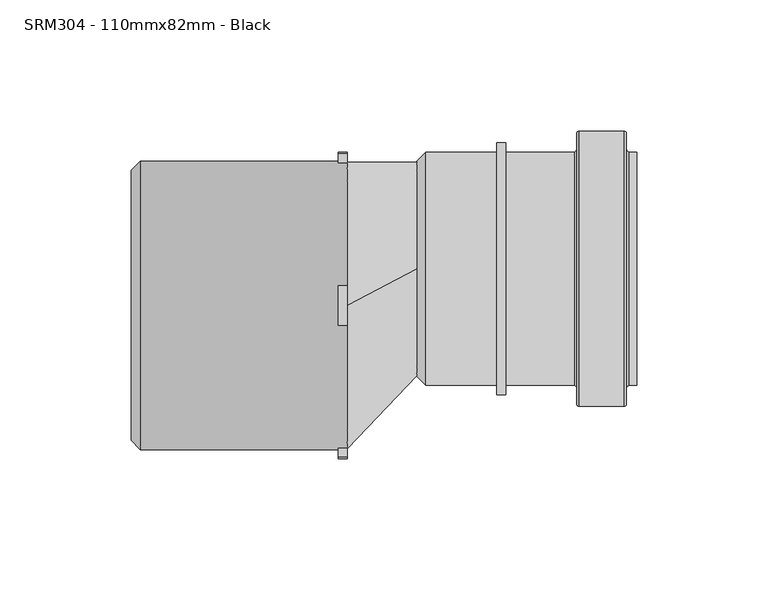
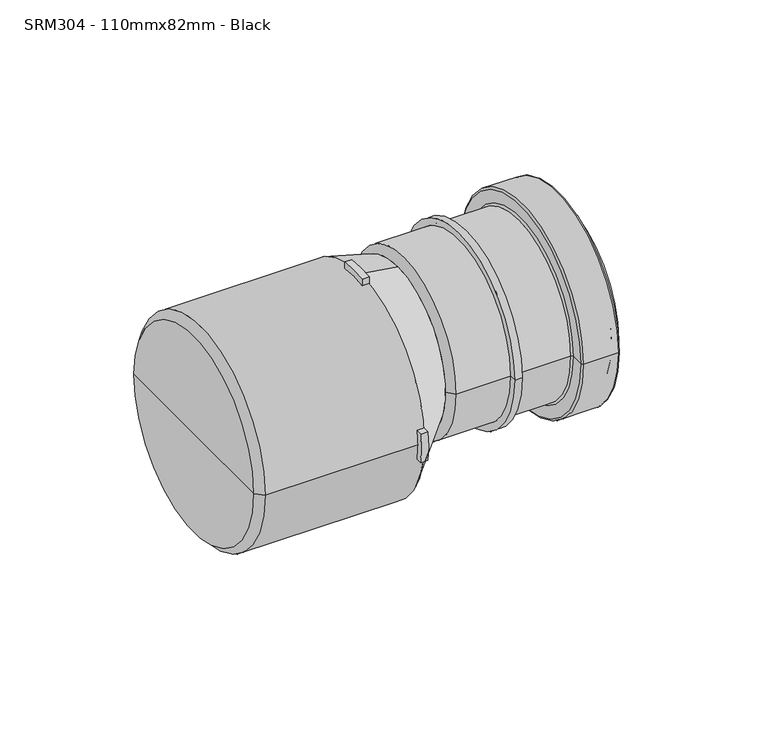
"""IFC4 building model written with IfcOpenShell, lengths in millimetres: pipe fitting geometry, MarleyPlumbingAndDrainage_PipeFitting_LevelInvertReducer : SRM304 - 110mmx82mm - Black."""

from ifc_helpers import new_model, si_unit, point, frame, frame_2d, origin, place, context, project, spatial, polyline, circle_curve, ellipse_curve, trimmed, segment, composite_curve, outline, extrude, source, transform, mapped, element, save
from ifc_brep_helpers import plane_surface, cylinder_surface, revolved_surface, spline_surface, advanced_brep


def srm304_110mmx82mm_black_22a10cc0(model_context):
    return source(origin(), model_context, "Body", "SolidModel", [
        advanced_brep(
        [(-260.2799651, -65.5, 0.0), (-260.2799651, 37.5, 0.0), (-256.7799651, 41.0, 0.0), (-256.7799651, -69.0, 0.0), (-260.2799651, -14.0, 0.0), (-177.7799651, 41.0, 0.0), (-177.7799651, -14.0, -55.0), (-177.7799651, -69.0, 0.0), (-177.7799651, -14.0, 55.0), (-151.2799651, 0.0, -41.0), (-151.2799651, 0.0, 41.0)],
        [
            (0, 1, circle_curve(frame((-260.2799651, -14.0, 0.0), z_axis=(1.0, 0.0, 0.0), x_axis=(0.0, 1.0, 0.0)), 51.5)),
            (1, 2),
            (2, 3, circle_curve(frame((-256.7799651, -14.0, 0.0), z_axis=(-1.0, 0.0, 0.0), x_axis=(0.0, 1.0, 0.0)), 55.0)),
            (3, 0),
            (1, 0, circle_curve(frame((-260.2799651, -14.0, 0.0), z_axis=(1.0, 0.0, 0.0), x_axis=(0.0, 1.0, 0.0)), 51.5)),
            (3, 2, circle_curve(frame((-256.7799651, -14.0, 0.0), z_axis=(-1.0, 0.0, 0.0), x_axis=(0.0, 1.0, 0.0)), 55.0)),
            (0, 4),
            (4, 1),
            (2, 5),
            (5, 6, circle_curve(frame((-177.7799651, -14.0, 0.0), z_axis=(-1.0, 0.0, 0.0), x_axis=(0.0, 1.0, 0.0)), 55.0)),
            (6, 7, circle_curve(frame((-177.7799651, -14.0, 0.0), z_axis=(-1.0, 0.0, 0.0), x_axis=(0.0, 1.0, 0.0)), 55.0)),
            (7, 3),
            (7, 8, circle_curve(frame((-177.7799651, -14.0, 0.0), z_axis=(-1.0, 0.0, 0.0), x_axis=(0.0, 1.0, 0.0)), 55.0)),
            (8, 5, circle_curve(frame((-177.7799651, -14.0, 0.0), z_axis=(-1.0, 0.0, 0.0), x_axis=(0.0, 1.0, 0.0)), 55.0)),
            (9, 10, circle_curve(frame((-151.2799651, 0.0, 0.0), z_axis=(1.0, 0.0, 0.0), x_axis=(0.0, 0.0, 1.0)), 41.0)),
            (10, 9, circle_curve(frame((-151.2799651, 0.0, 0.0), z_axis=(1.0, 0.0, 0.0), x_axis=(0.0, 0.0, 1.0)), 41.0)),
            (9, 6),
            (8, 10),
        ],
        [
            revolved_surface(polyline([(-256.7799651, 41.0, 0.0), (-260.2799651, 37.5, 0.0)]), (25.0, -14.0, 0.0), (-1.0, 0.0, 0.0)),
            plane_surface(frame((-260.2799651, -14.0, 0.0), z_axis=(-1.0, 0.0, 0.0), x_axis=(0.0, 1.0, 0.0))),
            cylinder_surface(frame((25.0, -14.0, 0.0), z_axis=(-1.0, 0.0, 0.0), x_axis=(0.0, 1.0, 0.0)), 55.0),
            plane_surface(frame((-151.2799651, 0.0, 0.0), z_axis=(1.0, 0.0, 0.0), x_axis=(0.0, 1.0, 0.0))),
            spline_surface(2, 1, [[(-177.7799651, -14.0, -55.0), (-151.2799651, 0.0, -41.0)], [(-177.7799651, 41.0, -55.0), (-151.2799651, 41.0, -41.0)], [(-177.7799651, 41.0, 0.0), (-151.2799651, 41.0, 0.0)], [(-177.7799651, 41.0, 55.0), (-151.2799651, 41.0, 41.0)], [(-177.7799651, -14.0, 55.0), (-151.2799651, 0.0, 41.0)]], [3, 2, 3], [2, 2], [0.0, 1.0, 2.0], [0.0, 1.0], weights=[[1.0, 1.0], [0.7071067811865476, 0.7071067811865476], [1.0, 1.0], [0.7071067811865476, 0.7071067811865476], [1.0, 1.0]]),
            spline_surface(2, 1, [[(-177.7799651, -14.0, 55.0), (-151.2799651, 0.0, 41.0)], [(-177.7799651, -69.0, 55.0), (-151.2799651, -41.0, 41.0)], [(-177.7799651, -69.0, 0.0), (-151.2799651, -41.0, 0.0)], [(-177.7799651, -69.0, -55.0), (-151.2799651, -41.0, -41.0)], [(-177.7799651, -14.0, -55.0), (-151.2799651, 0.0, -41.0)]], [3, 2, 3], [2, 2], [0.0, 1.0, 2.0], [0.0, 1.0], weights=[[1.0, 1.0], [0.7071067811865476, 0.7071067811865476], [1.0, 1.0], [0.7071067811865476, 0.7071067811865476], [1.0, 1.0]]),
        ],
        [
            (0, [[1, 2, 3, 4]]),
            (0, [[-2, 5, -4, 6]]),
            (1, [[-1, 7, 8]]),
            (1, [[-5, -8, -7]]),
            (2, [[-3, 9, 10, 11, 12]]),
            (2, [[-6, -12, 13, 14, -9]]),
            (3, [[15, 16]]),
            (4, [[-15, 17, -10, -14, 18]]),
            (5, [[-16, -18, -13, -11, -17]]),
        ],
    ),
        advanced_brep(
        [(-117.2799651, 48.0, 0.0), (-117.2799651, -48.0, 0.0), (-120.7799651, -48.0, 0.0), (-120.7799651, 48.0, 0.0), (-117.2799651, 44.5, 0.0), (-117.2799651, -44.5, 0.0), (-120.7799651, 44.5, 0.0), (-120.7799651, -44.5, 0.0)],
        [
            (0, 1, circle_curve(frame((-117.2799651, 0.0, 0.0), z_axis=(-1.0, 0.0, 0.0), x_axis=(0.0, -1.0, 0.0)), 48.0)),
            (1, 2),
            (2, 3, circle_curve(frame((-120.7799651, 0.0, 0.0), z_axis=(1.0, 0.0, 0.0), x_axis=(0.0, -1.0, 0.0)), 48.0)),
            (3, 0),
            (1, 0, circle_curve(frame((-117.2799651, 0.0, 0.0), z_axis=(-1.0, 0.0, 0.0), x_axis=(0.0, -1.0, 0.0)), 48.0)),
            (3, 2, circle_curve(frame((-120.7799651, 0.0, 0.0), z_axis=(1.0, 0.0, 0.0), x_axis=(0.0, -1.0, 0.0)), 48.0)),
            (4, 5, circle_curve(frame((-117.2799651, 0.0, 0.0), z_axis=(-1.0, 0.0, 0.0), x_axis=(0.0, -1.0, 0.0)), 44.5)),
            (5, 1),
            (0, 4),
            (5, 4, circle_curve(frame((-117.2799651, 0.0, 0.0), z_axis=(-1.0, 0.0, 0.0), x_axis=(0.0, -1.0, 0.0)), 44.5)),
            (6, 7, circle_curve(frame((-120.7799651, 0.0, 0.0), z_axis=(-1.0, 0.0, 0.0), x_axis=(0.0, -1.0, 0.0)), 44.5)),
            (7, 5),
            (4, 6),
            (7, 6, circle_curve(frame((-120.7799651, 0.0, 0.0), z_axis=(-1.0, 0.0, 0.0), x_axis=(0.0, -1.0, 0.0)), 44.5)),
            (2, 7),
            (6, 3),
        ],
        [
            cylinder_surface(frame((-296.1478542, 0.0, 0.0), z_axis=(1.0, 0.0, 0.0), x_axis=(0.0, -1.0, 0.0)), 48.0),
            plane_surface(frame((-117.2799651, 0.0, 0.0), z_axis=(1.0, 0.0, 0.0), x_axis=(0.0, -1.0, 0.0))),
            revolved_surface(polyline([(-117.2799651, -44.5, 0.0), (-120.7799651, -44.5, 0.0)]), (-296.1478542, 0.0, 0.0), (1.0, 0.0, 0.0)),
            plane_surface(frame((-120.7799651, 0.0, 0.0), z_axis=(-1.0, 0.0, 0.0), x_axis=(0.0, -1.0, 0.0))),
        ],
        [
            (0, [[1, 2, 3, 4]]),
            (0, [[5, -4, 6, -2]]),
            (1, [[7, 8, -1, 9]]),
            (1, [[10, -9, -5, -8]]),
            (2, [[11, 12, -7, 13]]),
            (2, [[14, -13, -10, -12]]),
            (3, [[-3, 15, -11, 16]]),
            (3, [[-6, -16, -14, -15]]),
        ],
    ),
        extrude(outline(composite_curve([segment(trimmed(circle_curve(frame_2d((-14.0, 0.0)), 58.5), [point((-72.0172388, -7.5))], [point((-72.0172388, 7.5))], False, "CARTESIAN"), True, "CONTINUOUS"), segment(polyline([(-72.0172388, 7.5), (-68.4862368, 7.5)]), True, "CONTINUOUS"), segment(trimmed(circle_curve(frame_2d((-14.0, 0.0)), 55.0), [point((-68.4862368, 7.5))], [point((-68.4862368, -7.5))], True, "CARTESIAN"), True, "CONTINUOUS"), segment(polyline([(-68.4862368, -7.5), (-72.0172388, -7.5)]), True, "CONTINUOUS")], self_intersect=False)), frame((-181.2799651, 0.0, 0.0), z_axis=(1.0, 0.0, 0.0), x_axis=(0.0, 1.0, 0.0)), (0.0, 0.0, 1.0), 3.5),
        extrude(outline(composite_curve([segment(polyline([(40.4862368, 7.5), (44.0172388, 7.5)]), True, "CONTINUOUS"), segment(trimmed(circle_curve(frame_2d((-14.0, 0.0)), 58.5), [point((44.0172388, 7.5))], [point((44.0172388, -7.5))], False, "CARTESIAN"), True, "CONTINUOUS"), segment(polyline([(44.0172388, -7.5), (40.4862368, -7.5)]), True, "CONTINUOUS"), segment(trimmed(circle_curve(frame_2d((-14.0, 0.0)), 55.0), [point((40.4862368, -7.5))], [point((40.4862368, 7.5))], True, "CARTESIAN"), True, "CONTINUOUS")], self_intersect=False)), frame((-181.2799651, 0.0, 0.0), z_axis=(1.0, 0.0, 0.0), x_axis=(0.0, 1.0, 0.0)), (0.0, 0.0, 1.0), 3.5),
        extrude(outline(composite_curve([segment(polyline([(-6.5, -54.4862368), (-6.5, -58.0172388)]), True, "CONTINUOUS"), segment(trimmed(circle_curve(frame_2d((-14.0, 0.0)), 58.5), [point((-6.5, -58.0172388))], [point((-21.5, -58.0172388))], False, "CARTESIAN"), True, "CONTINUOUS"), segment(polyline([(-21.5, -58.0172388), (-21.5, -54.4862368)]), True, "CONTINUOUS"), segment(trimmed(circle_curve(frame_2d((-14.0, 0.0)), 55.0), [point((-21.5, -54.4862368))], [point((-6.5, -54.4862368))], True, "CARTESIAN"), True, "CONTINUOUS")], self_intersect=False)), frame((-181.2799651, 0.0, 0.0), z_axis=(1.0, 0.0, 0.0), x_axis=(0.0, 1.0, 0.0)), (0.0, 0.0, 1.0), 3.5),
        extrude(outline(composite_curve([segment(polyline([(-21.5, 54.4862368), (-21.5, 58.0172388)]), True, "CONTINUOUS"), segment(trimmed(circle_curve(frame_2d((-14.0, 0.0)), 58.5), [point((-21.5, 58.0172388))], [point((-6.5, 58.0172388))], False, "CARTESIAN"), True, "CONTINUOUS"), segment(polyline([(-6.5, 58.0172388), (-6.5, 54.4862368)]), True, "CONTINUOUS"), segment(trimmed(circle_curve(frame_2d((-14.0, 0.0)), 55.0), [point((-6.5, 54.4862368))], [point((-21.5, 54.4862368))], True, "CARTESIAN"), True, "CONTINUOUS")], self_intersect=False)), frame((-181.2799651, 0.0, 0.0), z_axis=(1.0, 0.0, 0.0), x_axis=(0.0, 1.0, 0.0)), (0.0, 0.0, 1.0), 3.5),
        advanced_brep(
        [(-67.2799651, 41.0, 0.0), (-67.2799651, -41.0, 0.0), (-67.2799651, -44.5, 0.0), (-67.2799651, 44.5, 0.0), (-143.2799651, 41.0, 0.0), (-143.2799651, -41.0, 0.0), (-91.2799651, 44.5, 0.0), (-91.2799651, -44.5, 0.0), (-147.7799651, -44.5, 0.0), (-147.7799651, 44.5, 0.0), (-90.2799651, 51.5, 0.0), (-90.2799651, -51.5, 0.0), (-90.2799651, -45.5, 0.0), (-90.2799651, 45.5, 0.0), (-72.2799651, 52.5, 0.0), (-72.2799651, -52.5, 0.0), (-89.2799651, -52.5, 0.0), (-89.2799651, 52.5, 0.0), (-71.2799651, 45.5, 0.0), (-71.2799651, -45.5, 0.0), (-71.2799651, -51.5, 0.0), (-71.2799651, 51.5, 0.0), (-70.2799651, -44.5, 0.0), (-70.2799651, 44.5, 0.0), (-143.2799651, 0.0, 0.0), (-151.2799651, 41.0, 0.0), (-151.2799651, -41.0, 0.0), (-151.2799651, 0.0, 0.0)],
        [
            (0, 1, circle_curve(frame((-67.2799651, 0.0, 0.0), z_axis=(-1.0, 0.0, 0.0), x_axis=(0.0, -1.0, 0.0)), 41.0)),
            (1, 2),
            (2, 3, circle_curve(frame((-67.2799651, 0.0, 0.0), z_axis=(1.0, 0.0, 0.0), x_axis=(0.0, -1.0, 0.0)), 44.5)),
            (3, 0),
            (1, 0, circle_curve(frame((-67.2799651, 0.0, 0.0), z_axis=(-1.0, 0.0, 0.0), x_axis=(0.0, -1.0, 0.0)), 41.0)),
            (3, 2, circle_curve(frame((-67.2799651, 0.0, 0.0), z_axis=(1.0, 0.0, 0.0), x_axis=(0.0, -1.0, 0.0)), 44.5)),
            (4, 5, circle_curve(frame((-143.2799651, 0.0, 0.0), z_axis=(-1.0, 0.0, 0.0), x_axis=(0.0, -1.0, 0.0)), 41.0)),
            (5, 1),
            (0, 4),
            (5, 4, circle_curve(frame((-143.2799651, 0.0, 0.0), z_axis=(-1.0, 0.0, 0.0), x_axis=(0.0, -1.0, 0.0)), 41.0)),
            (6, 7, circle_curve(frame((-91.2799651, 0.0, 0.0), z_axis=(-1.0, 0.0, 0.0), x_axis=(0.0, -1.0, 0.0)), 44.5)),
            (7, 8),
            (8, 9, circle_curve(frame((-147.7799651, 0.0, 0.0), z_axis=(1.0, 0.0, 0.0), x_axis=(0.0, -1.0, 0.0)), 44.5)),
            (9, 6),
            (7, 6, circle_curve(frame((-91.2799651, 0.0, 0.0), z_axis=(-1.0, 0.0, 0.0), x_axis=(0.0, -1.0, 0.0)), 44.5)),
            (9, 8, circle_curve(frame((-147.7799651, 0.0, 0.0), z_axis=(1.0, 0.0, 0.0), x_axis=(0.0, -1.0, 0.0)), 44.5)),
            (10, 11, circle_curve(frame((-90.2799651, 0.0, 0.0), z_axis=(-1.0, 0.0, 0.0), x_axis=(0.0, -1.0, 0.0)), 51.5)),
            (11, 12),
            (12, 13, circle_curve(frame((-90.2799651, 0.0, 0.0), z_axis=(1.0, 0.0, 0.0), x_axis=(0.0, -1.0, 0.0)), 45.5)),
            (13, 10),
            (11, 10, circle_curve(frame((-90.2799651, 0.0, 0.0), z_axis=(-1.0, 0.0, 0.0), x_axis=(0.0, -1.0, 0.0)), 51.5)),
            (13, 12, circle_curve(frame((-90.2799651, 0.0, 0.0), z_axis=(1.0, 0.0, 0.0), x_axis=(0.0, -1.0, 0.0)), 45.5)),
            (14, 15, circle_curve(frame((-72.2799651, 0.0, 0.0), z_axis=(-1.0, 0.0, 0.0), x_axis=(0.0, -1.0, 0.0)), 52.5)),
            (15, 16),
            (16, 17, circle_curve(frame((-89.2799651, 0.0, 0.0), z_axis=(1.0, 0.0, 0.0), x_axis=(0.0, -1.0, 0.0)), 52.5)),
            (17, 14),
            (15, 14, circle_curve(frame((-72.2799651, 0.0, 0.0), z_axis=(-1.0, 0.0, 0.0), x_axis=(0.0, -1.0, 0.0)), 52.5)),
            (17, 16, circle_curve(frame((-89.2799651, 0.0, 0.0), z_axis=(1.0, 0.0, 0.0), x_axis=(0.0, -1.0, 0.0)), 52.5)),
            (18, 19, circle_curve(frame((-71.2799651, 0.0, 0.0), z_axis=(-1.0, 0.0, 0.0), x_axis=(0.0, -1.0, 0.0)), 45.5)),
            (19, 20),
            (20, 21, circle_curve(frame((-71.2799651, 0.0, 0.0), z_axis=(1.0, 0.0, 0.0), x_axis=(0.0, -1.0, 0.0)), 51.5)),
            (21, 18),
            (19, 18, circle_curve(frame((-71.2799651, 0.0, 0.0), z_axis=(-1.0, 0.0, 0.0), x_axis=(0.0, -1.0, 0.0)), 45.5)),
            (21, 20, circle_curve(frame((-71.2799651, 0.0, 0.0), z_axis=(1.0, 0.0, 0.0), x_axis=(0.0, -1.0, 0.0)), 51.5)),
            (2, 22),
            (22, 23, circle_curve(frame((-70.2799651, 0.0, 0.0), z_axis=(1.0, 0.0, 0.0), x_axis=(0.0, -1.0, 0.0)), 44.5)),
            (23, 3),
            (23, 22, circle_curve(frame((-70.2799651, 0.0, 0.0), z_axis=(1.0, 0.0, 0.0), x_axis=(0.0, -1.0, 0.0)), 44.5)),
            (12, 7, circle_curve(frame((-91.2799651, -45.5, 0.0), z_axis=(0.0, 0.0, 1.0), x_axis=(1.0, 0.0, 0.0)), 1.0)),
            (6, 13, circle_curve(frame((-91.2799651, 45.5, 0.0), z_axis=(0.0, 0.0, 1.0), x_axis=(1.0, 0.0, 0.0)), 1.0)),
            (16, 11, circle_curve(frame((-89.2799651, -51.5, 0.0), z_axis=(0.0, 0.0, -1.0), x_axis=(1.0, 0.0, 0.0)), 1.0)),
            (10, 17, circle_curve(frame((-89.2799651, 51.5, 0.0), z_axis=(0.0, 0.0, -1.0), x_axis=(1.0, 0.0, 0.0)), 1.0)),
            (20, 15, circle_curve(frame((-72.2799651, -51.5, 0.0), z_axis=(0.0, 0.0, -1.0), x_axis=(1.0, 0.0, 0.0)), 1.0)),
            (14, 21, circle_curve(frame((-72.2799651, 51.5, 0.0), z_axis=(0.0, 0.0, -1.0), x_axis=(1.0, 0.0, 0.0)), 1.0)),
            (22, 19, circle_curve(frame((-70.2799651, -45.5, 0.0), z_axis=(0.0, 0.0, 1.0), x_axis=(1.0, 0.0, 0.0)), 1.0)),
            (18, 23, circle_curve(frame((-70.2799651, 45.5, 0.0), z_axis=(0.0, 0.0, 1.0), x_axis=(1.0, 0.0, 0.0)), 1.0)),
            (24, 5),
            (4, 24),
            (25, 26, circle_curve(frame((-151.2799651, 0.0, 0.0), z_axis=(-1.0, 0.0, 0.0), x_axis=(0.0, -1.0, 0.0)), 41.0)),
            (26, 27),
            (27, 25),
            (26, 25, circle_curve(frame((-151.2799651, 0.0, 0.0), z_axis=(-1.0, 0.0, 0.0), x_axis=(0.0, -1.0, 0.0)), 41.0)),
            (8, 26),
            (25, 9),
        ],
        [
            plane_surface(frame((-67.2799651, 0.0, 0.0), z_axis=(1.0, 0.0, 0.0), x_axis=(0.0, -1.0, 0.0))),
            revolved_surface(polyline([(-67.2799651, -41.0, 0.0), (-143.2799651, -41.0, 0.0)]), (-296.1478542, 0.0, 0.0), (1.0, 0.0, 0.0)),
            cylinder_surface(frame((-296.1478542, 0.0, 0.0), z_axis=(1.0, 0.0, 0.0), x_axis=(0.0, -1.0, 0.0)), 44.5),
            plane_surface(frame((-90.2799651, 0.0, 0.0), z_axis=(-1.0, 0.0, 0.0), x_axis=(0.0, -1.0, 0.0))),
            cylinder_surface(frame((-296.1478542, 0.0, 0.0), z_axis=(1.0, 0.0, 0.0), x_axis=(0.0, -1.0, 0.0)), 52.5),
            plane_surface(frame((-71.2799651, 0.0, 0.0), z_axis=(1.0, 0.0, 0.0), x_axis=(0.0, -1.0, 0.0))),
            revolved_surface(trimmed(ellipse_curve(frame((-91.2799651, -45.5, 0.0), z_axis=(0.0, 0.0, -1.0), x_axis=(1.0, 0.0, 0.0)), 1.0, 1.0), [point((-91.2799651, -44.5, 0.0))], [point((-90.2799651, -45.5, 0.0))], True, "CARTESIAN"), (-296.1478542, 0.0, 0.0), (1.0, 0.0, 0.0)),
            revolved_surface(trimmed(ellipse_curve(frame((-89.2799651, -51.5, 0.0), z_axis=(0.0, 0.0, 1.0), x_axis=(1.0, 0.0, 0.0)), 1.0, 1.0), [point((-90.2799651, -51.5, 0.0))], [point((-89.2799651, -52.5, 0.0))], True, "CARTESIAN"), (-296.1478542, 0.0, 0.0), (1.0, 0.0, 0.0)),
            revolved_surface(trimmed(ellipse_curve(frame((-72.2799651, -51.5, 0.0), z_axis=(0.0, 0.0, 1.0), x_axis=(1.0, 0.0, 0.0)), 1.0, 1.0), [point((-72.2799651, -52.5, 0.0))], [point((-71.2799651, -51.5, 0.0))], True, "CARTESIAN"), (-296.1478542, 0.0, 0.0), (1.0, 0.0, 0.0)),
            revolved_surface(trimmed(ellipse_curve(frame((-70.2799651, -45.5, 0.0), z_axis=(0.0, 0.0, -1.0), x_axis=(1.0, 0.0, 0.0)), 1.0, 1.0), [point((-71.2799651, -45.5, 0.0))], [point((-70.2799651, -44.5, 0.0))], True, "CARTESIAN"), (-296.1478542, 0.0, 0.0), (1.0, 0.0, 0.0)),
            plane_surface(frame((-143.2799651, 0.0, 0.0), z_axis=(1.0, 0.0, 0.0), x_axis=(0.0, -1.0, 0.0))),
            plane_surface(frame((-151.2799651, 0.0, 0.0), z_axis=(-1.0, 0.0, 0.0), x_axis=(0.0, -1.0, 0.0))),
            revolved_surface(polyline([(-151.2799651, -41.0, 0.0), (-147.7799651, -44.5, 0.0)]), (-296.1478542, 0.0, 0.0), (1.0, 0.0, 0.0)),
        ],
        [
            (0, [[1, 2, 3, 4]]),
            (0, [[5, -4, 6, -2]]),
            (1, [[7, 8, -1, 9]]),
            (1, [[10, -9, -5, -8]]),
            (2, [[11, 12, 13, 14]]),
            (2, [[15, -14, 16, -12]]),
            (3, [[17, 18, 19, 20]]),
            (3, [[21, -20, 22, -18]]),
            (4, [[23, 24, 25, 26]]),
            (4, [[27, -26, 28, -24]]),
            (5, [[29, 30, 31, 32]]),
            (5, [[33, -32, 34, -30]]),
            (2, [[-3, 35, 36, 37]]),
            (2, [[-6, -37, 38, -35]]),
            (6, [[-19, 39, -11, 40]]),
            (6, [[-22, -40, -15, -39]]),
            (7, [[-25, 41, -17, 42]]),
            (7, [[-28, -42, -21, -41]]),
            (8, [[-31, 43, -23, 44]]),
            (8, [[-34, -44, -27, -43]]),
            (9, [[-36, 45, -29, 46]]),
            (9, [[-38, -46, -33, -45]]),
            (10, [[47, -7, 48]]),
            (10, [[-48, -10, -47]]),
            (11, [[49, 50, 51]]),
            (11, [[52, -51, -50]]),
            (12, [[-13, 53, -49, 54]]),
            (12, [[-16, -54, -52, -53]]),
        ],
    ),
    ])


if __name__ == "__main__":
    model = new_model("IFC4")
    model_context = context("Model", 3, world=origin())
    ifc_project = project(units=[si_unit("LENGTHUNIT", "METRE", prefix="MILLI")], contexts=[model_context])
    site = spatial("IfcSite", under=ifc_project)
    building = spatial("IfcBuilding", under=site)
    placement = place(None, origin())
    srm304_110mmx82mm_black_shape = srm304_110mmx82mm_black_22a10cc0(model_context)
    element("IfcPipeFitting", 1, ObjectType="MarleyPlumbingAndDrainage_PipeFitting_LevelInvertReducer : SRM304 - 110mmx82mm - Black", at=placement, inside=building, context=model_context, shape_type="MappedRepresentation", body=[
        mapped(srm304_110mmx82mm_black_shape, transform((0.0, 0.0, 0.0), x_axis=(1.0, 0.0, 0.0), y_axis=(0.0, 1.0, 0.0), z_axis=(0.0, 0.0, 1.0))),
    ])
    save(model, "model.ifc")
